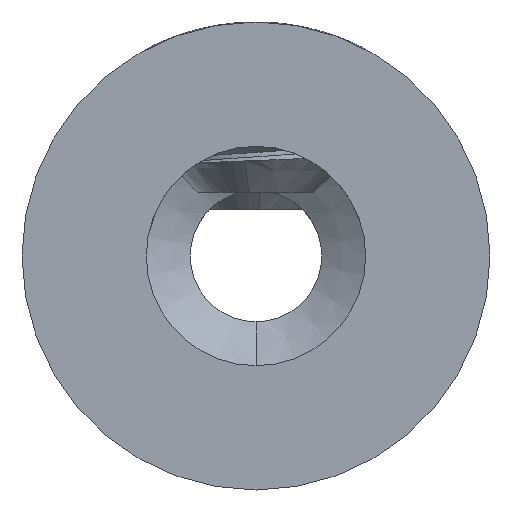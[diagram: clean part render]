
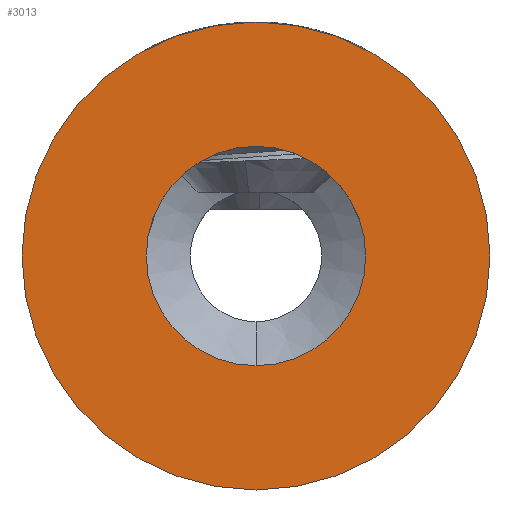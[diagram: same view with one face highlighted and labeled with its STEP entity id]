
A CAD part, front view. The second image highlights one B-rep face of the part: STEP entity #3013.
In plain terms, the highlighted planar face has unit normal (0, -1, 0).
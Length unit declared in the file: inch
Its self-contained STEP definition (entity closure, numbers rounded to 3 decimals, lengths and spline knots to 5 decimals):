
#127 = CIRCLE ( 'NONE', #6425, 0.21 ) ;
#221 = DIRECTION ( 'NONE',  ( 0., -1., 0. ) ) ;
#748 = DIRECTION ( 'NONE',  ( 0., 0., 1. ) ) ;
#1005 = FACE_BOUND ( 'NONE', #4720, .T. ) ;
#1269 = DIRECTION ( 'NONE',  ( 0., 0., 1. ) ) ;
#1653 = CARTESIAN_POINT ( 'NONE',  ( 0., 0., -0.09843 ) ) ;
#2312 = EDGE_CURVE ( 'NONE', #7729, #6255, #5220, .T. ) ;
#2353 = DIRECTION ( 'NONE',  ( 0., -1., 0. ) ) ;
#3013 = ADVANCED_FACE ( 'NONE', ( #1005, #4215 ), #11637, .F. ) ;
#3666 = VERTEX_POINT ( 'NONE', #6398 ) ;
#3918 = EDGE_CURVE ( 'NONE', #4188, #3666, #5875, .T. ) ;
#4069 = DIRECTION ( 'NONE',  ( 0., 0., 1. ) ) ;
#4188 = VERTEX_POINT ( 'NONE', #5778 ) ;
#4215 = FACE_OUTER_BOUND ( 'NONE', #10644, .T. ) ;
#4563 = CARTESIAN_POINT ( 'NONE',  ( 0., 0., 0. ) ) ;
#4720 = EDGE_LOOP ( 'NONE', ( #8256, #12318 ) ) ;
#5220 = CIRCLE ( 'NONE', #6455, 0.09843 ) ;
#5546 = ORIENTED_EDGE ( 'NONE', *, *, #3918, .F. ) ;
#5778 = CARTESIAN_POINT ( 'NONE',  ( 0., 0., 0.21 ) ) ;
#5875 = CIRCLE ( 'NONE', #13597, 0.21 ) ;
#5893 = EDGE_CURVE ( 'NONE', #6255, #7729, #13813, .T. ) ;
#6106 = CARTESIAN_POINT ( 'NONE',  ( 0., 0., 0. ) ) ;
#6246 = ORIENTED_EDGE ( 'NONE', *, *, #13402, .F. ) ;
#6255 = VERTEX_POINT ( 'NONE', #13306 ) ;
#6398 = CARTESIAN_POINT ( 'NONE',  ( 0., 0., -0.21 ) ) ;
#6425 = AXIS2_PLACEMENT_3D ( 'NONE', #6106, #11479, #748 ) ;
#6455 = AXIS2_PLACEMENT_3D ( 'NONE', #7664, #2353, #6667 ) ;
#6667 = DIRECTION ( 'NONE',  ( 0., 0., -1. ) ) ;
#7375 = AXIS2_PLACEMENT_3D ( 'NONE', #12638, #13822, #4069 ) ;
#7664 = CARTESIAN_POINT ( 'NONE',  ( 0., 0., 0. ) ) ;
#7729 = VERTEX_POINT ( 'NONE', #1653 ) ;
#8256 = ORIENTED_EDGE ( 'NONE', *, *, #2312, .F. ) ;
#9899 = DIRECTION ( 'NONE',  ( 0., 0., -1. ) ) ;
#10155 = AXIS2_PLACEMENT_3D ( 'NONE', #12018, #221, #9899 ) ;
#10644 = EDGE_LOOP ( 'NONE', ( #6246, #5546 ) ) ;
#11479 = DIRECTION ( 'NONE',  ( 0., 1., 0. ) ) ;
#11637 = PLANE ( 'NONE',  #7375 ) ;
#12018 = CARTESIAN_POINT ( 'NONE',  ( 0., 0., 0. ) ) ;
#12090 = DIRECTION ( 'NONE',  ( 0., 1., 0. ) ) ;
#12318 = ORIENTED_EDGE ( 'NONE', *, *, #5893, .F. ) ;
#12638 = CARTESIAN_POINT ( 'NONE',  ( 0., 0., 0. ) ) ;
#13306 = CARTESIAN_POINT ( 'NONE',  ( 0., 0., 0.09843 ) ) ;
#13402 = EDGE_CURVE ( 'NONE', #3666, #4188, #127, .T. ) ;
#13597 = AXIS2_PLACEMENT_3D ( 'NONE', #4563, #12090, #1269 ) ;
#13813 = CIRCLE ( 'NONE', #10155, 0.09843 ) ;
#13822 = DIRECTION ( 'NONE',  ( 0., 1., 0. ) ) ;
